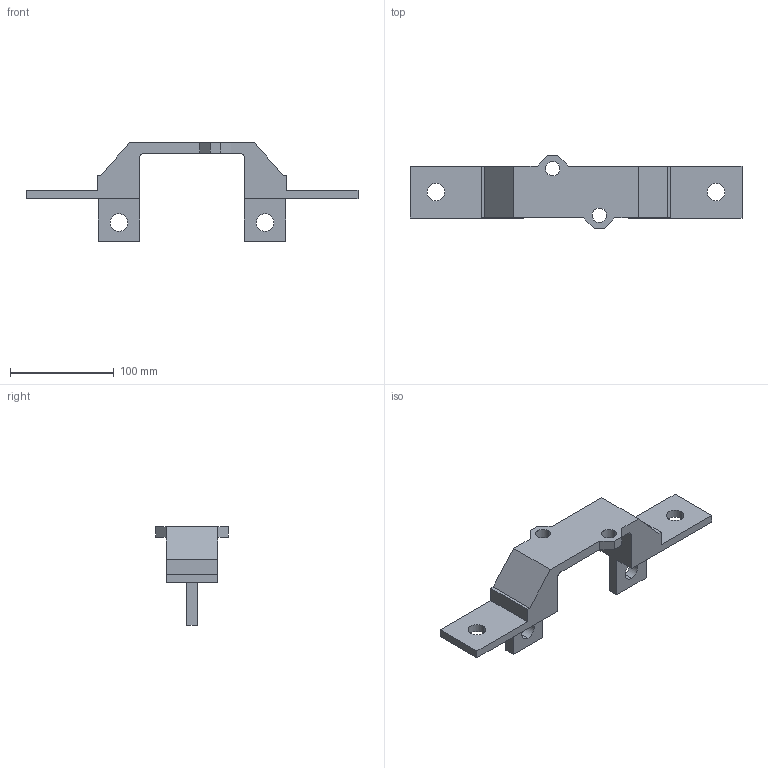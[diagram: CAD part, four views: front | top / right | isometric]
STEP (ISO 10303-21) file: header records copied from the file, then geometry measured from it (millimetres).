
FILE_DESCRIPTION (( 'STEP AP214' ), '1' );
FILE_NAME ('ﾎ魵瑙韃 ﾏﾏﾍ-4-ﾈ2-ﾓﾕﾋ3-ﾊﾝﾀﾇ.STEP', '2023-05-25T07:12:00', ( '' ), ( '' ), 'SwSTEP 2.0', 'SolidWorks 2018', '' );
FILE_SCHEMA (( 'AUTOMOTIVE_DESIGN' ));
Length unit declared in the file: millimetre
Products named in the file (1): ﾎ魵瑙韃 ﾏﾏﾍ-4-ﾈ2-ﾓﾕﾋ3-ﾊﾝﾀﾇ
Bounding box: 320 x 70 x 95 mm (x, y, z)
Volume: 297209.7 mm3; surface area: 60249.7 mm2
Topology: 1 solids, 1 shells, 48 faces, 138 edges, 92 vertices
Faces by surface type: plane 34, cylinder 14
Entity records: 1628 total; most frequent: CARTESIAN_POINT 279, ORIENTED_EDGE 276, DIRECTION 264, EDGE_CURVE 138, VECTOR 110, LINE 110, VERTEX_POINT 92, AXIS2_PLACEMENT_3D 77
